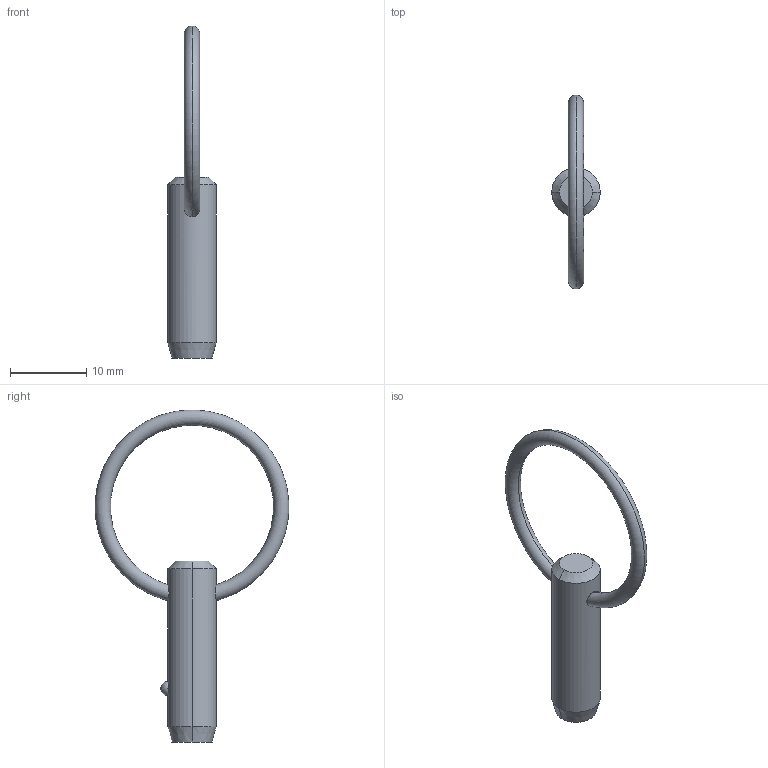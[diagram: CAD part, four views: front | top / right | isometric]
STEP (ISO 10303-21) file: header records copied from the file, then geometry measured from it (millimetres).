
FILE_DESCRIPTION (( 'STEP AP203' ), '1' );
FILE_NAME ('P1250.025-040.step', '2019-07-29T19:38:18', ( '' ), ( '' ), 'SwSTEP 2.0', 'SolidWorks 2017', '' );
FILE_SCHEMA (( 'CONFIG_CONTROL_DESIGN' ));
Length unit declared in the file: millimetre
Products named in the file (1): P1250.025-040
Bounding box: 6.35 x 25.38 x 43.52 mm (x, y, z)
Volume: 944.2 mm3; surface area: 930.2 mm2
Topology: 1 solids, 1 shells, 12 faces, 28 edges, 17 vertices
Faces by surface type: cone 4, torus 2, sphere 2, cylinder 2, plane 2
Entity records: 481 total; most frequent: CARTESIAN_POINT 148, DIRECTION 56, ORIENTED_EDGE 48, AXIS2_PLACEMENT_3D 25, EDGE_CURVE 24, VERTEX_POINT 15, EDGE_LOOP 15, ADVANCED_FACE 12
